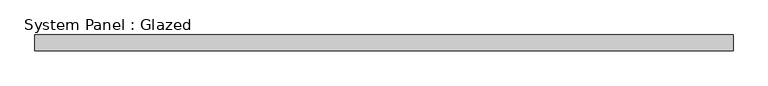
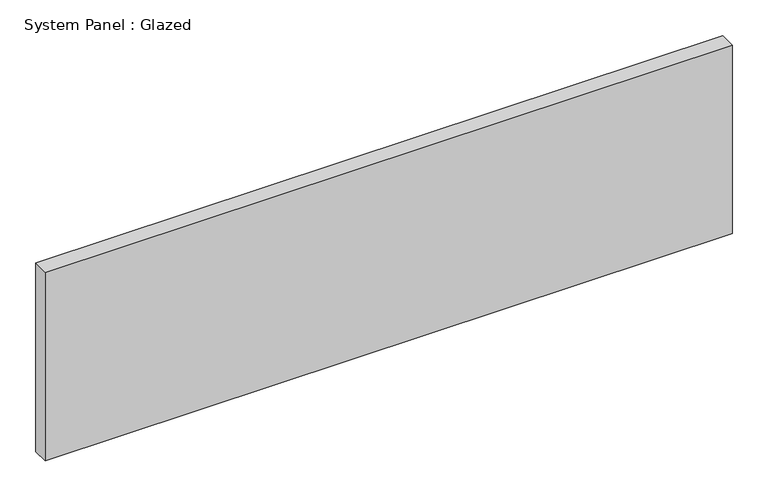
"""IFC4 building model written with IfcOpenShell, lengths in millimetres: plate geometry, System Panel : Glazed."""

from ifc_helpers import new_model, si_unit, origin, origin_with_axes, place, context, project, spatial, polyline, outline, extrude, source, transform, mapped, element, save


def system_panel_glazed_a19a3273(model_context):
    return source(origin(), model_context, "Body", "SweptSolid", [
        extrude(outline(polyline([(551.18, 19.05), (-551.18, 19.05), (-551.18, 44.45), (551.18, 44.45), (551.18, 19.05)])), origin_with_axes(), (0.0, 0.0, 1.0), 320.2027241),
    ])


if __name__ == "__main__":
    model = new_model("IFC4")
    model_context = context("Model", 3, world=origin())
    ifc_project = project(units=[si_unit("LENGTHUNIT", "METRE", prefix="MILLI")], contexts=[model_context])
    site = spatial("IfcSite", under=ifc_project)
    building = spatial("IfcBuilding", under=site)
    placement = place(None, origin())
    system_panel_glazed_shape = system_panel_glazed_a19a3273(model_context)
    element("IfcPlate", 1, ObjectType="System Panel : Glazed", at=placement, inside=building, context=model_context, shape_type="MappedRepresentation", body=[
        mapped(system_panel_glazed_shape, transform((0.0, 0.0, 0.0), x_axis=(1.0, 0.0, 0.0), y_axis=(0.0, 1.0, 0.0), z_axis=(0.0, 0.0, 1.0))),
    ])
    save(model, "model.ifc")
